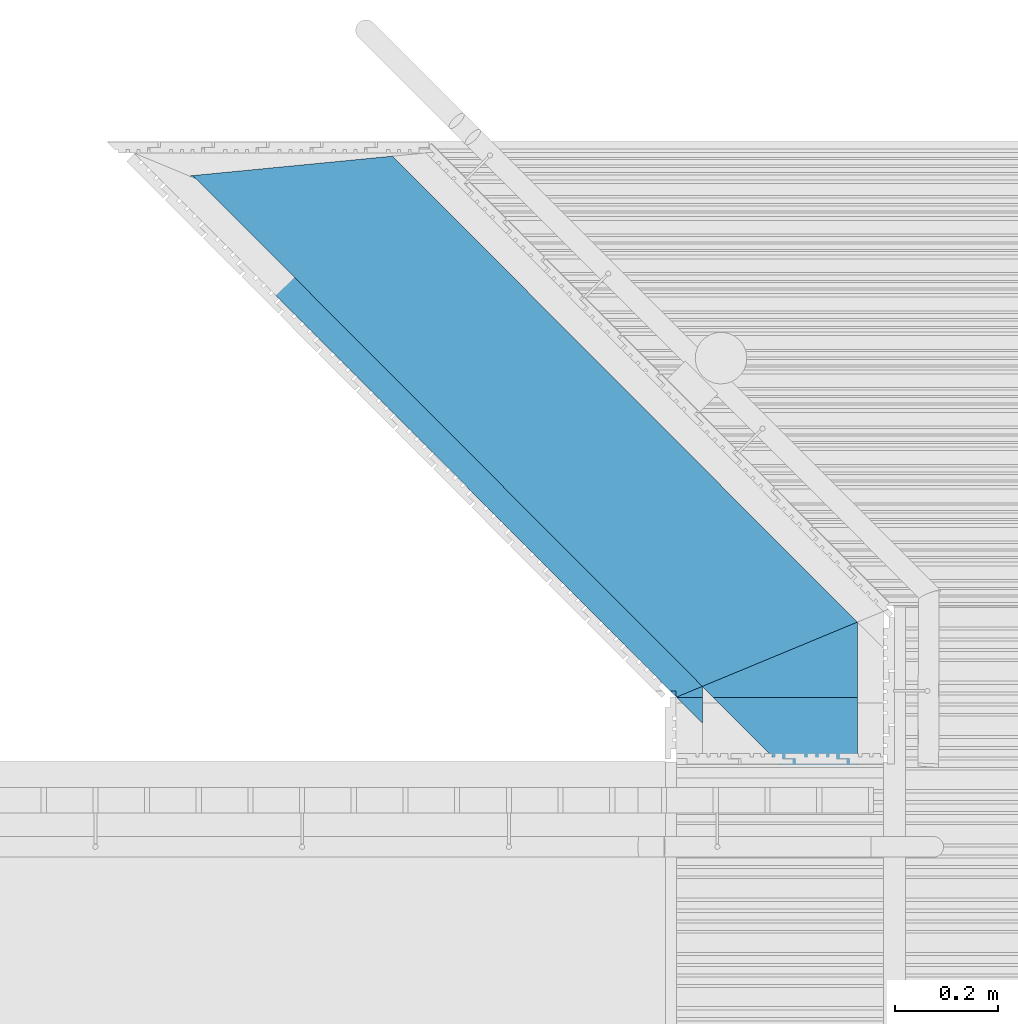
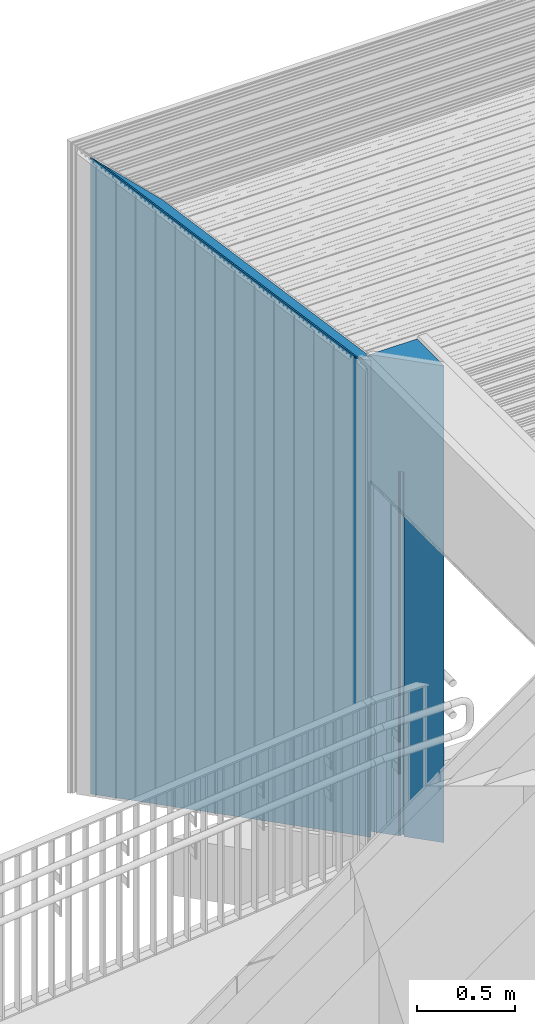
# One storey, part 134 of 418: 2 building element parts, 1 element without a shape of its own.
"""IFC2X3 building model written with IfcOpenShell, lengths in millimetres."""

from ifc_helpers import new_model, entity, si_unit, converted_unit, derived_unit, money_unit, direction, frame, origin_with_axes, place, context, subcontext, project, spatial, polyline, outline, extrude, boolean, faceted_brep, material, type_object, element, aggregate, save


model = new_model("IFC2X3")

# Units and contexts
model_context = context("Model", 3, precision=0.01, world=origin_with_axes(), true_north=direction((0.0, 1.0)))
body_context = subcontext(model_context, "Body", "Model", "MODEL_VIEW")
ifc_project = project(units=[si_unit("LENGTHUNIT", "METRE", prefix="MILLI"), si_unit("AREAUNIT", "SQUARE_METRE"), si_unit("VOLUMEUNIT", "CUBIC_METRE"), converted_unit("PLANEANGLEUNIT", "DEGREE", entity("IfcPlaneAngleMeasure", 0.0174532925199), si_unit("PLANEANGLEUNIT", "RADIAN"), dimensions=[0, 0, 0, 0, 0, 0, 0]), si_unit("SOLIDANGLEUNIT", "STERADIAN"), money_unit("EUR"), converted_unit("TIMEUNIT", "Year", entity("IfcTimeMeasure", 31556926.0), si_unit("TIMEUNIT", "SECOND"), dimensions=[0, 0, 1, 0, 0, 0, 0]), si_unit("MASSUNIT", "GRAM", prefix="KILO"), si_unit("THERMODYNAMICTEMPERATUREUNIT", "DEGREE_CELSIUS"), si_unit("LUMINOUSINTENSITYUNIT", "LUMEN"), si_unit("ENERGYUNIT", "JOULE", prefix="MEGA"), derived_unit("THERMALCONDUCTANCEUNIT", [(si_unit("POWERUNIT", "WATT"), 1), (si_unit("LENGTHUNIT", "METRE"), -1), (si_unit("THERMODYNAMICTEMPERATUREUNIT", "KELVIN"), -1)]), derived_unit("SPECIFICHEATCAPACITYUNIT", [(si_unit("ENERGYUNIT", "JOULE"), 1), (si_unit("MASSUNIT", "GRAM", prefix="KILO"), -1), (si_unit("THERMODYNAMICTEMPERATUREUNIT", "KELVIN"), -1)]), derived_unit("MASSDENSITYUNIT", [(si_unit("MASSUNIT", "GRAM", prefix="KILO"), 1), (si_unit("VOLUMEUNIT", "CUBIC_METRE"), -1)])], contexts=[model_context])

# Site, building, storey
site_placement = place(None, origin_with_axes())
site = spatial("IfcSite", under=ifc_project, at=site_placement, Name="Paldiski mnt 245/1, Tallinn, Harjumaa", CompositionType="COMPLEX")
building_placement = place(site_placement, origin_with_axes())
building = spatial("IfcBuilding", under=site, at=building_placement, Name="RKAS Hoone üldnimetus (kasutust iseloomustav) -> IFC Project Manager -> SOLIBRI", CompositionType="ELEMENT")
storey_placement = place(building_placement, origin_with_axes())
storey = spatial("IfcBuildingStorey", under=building, at=storey_placement, Name="Esimene korrus", CompositionType="ELEMENT", Elevation=0.0)

# Proxy, building element parts
building_element_proxy_type = type_object("IfcBuildingElementProxyType", Name="Varikatuse_sein 400", PredefinedType="NOTDEFINED")
proxy_placement = place(storey_placement, frame((-53883.9743783, 39767.252735, 0.0), z_axis=(0.0, 0.0, 1.0), x_axis=(0.706191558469, -0.708020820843, 0.0)))
proxy = element("IfcBuildingElementProxy", 1, at=proxy_placement, inside=storey, type_object=building_element_proxy_type, Name="Varikatus")
ifc_material = material(Name="SKR-01_Õhkvahe - Raam")
building_element_part_1_placement = place(proxy_placement, origin_with_axes())
building_element_part_1 = element("IfcBuildingElementPart", 2, at=building_element_part_1_placement, material=ifc_material, Name="SKR-01_Õhkvahe - Raam", context=body_context, shape_type="CSG", body=[
    boolean("DIFFERENCE", boolean("DIFFERENCE", boolean("DIFFERENCE", boolean("DIFFERENCE", boolean("DIFFERENCE", boolean("DIFFERENCE", extrude(outline(polyline([(-398.966548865, -400.0), (1654.52755892, -400.0), (1654.52755892, -350.0), (-398.966548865, -350.0), (-398.966548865, -400.0)])), origin_with_axes(), (0.0, 0.0, 1.0), 4090.0), faceted_brep([(-287.303761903, -350.0, 3918.38339031), (-287.303761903, -350.0, 0.0), (-398.966548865, -350.0, 0.0), (-398.966548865, -350.0, 4090.0), (1654.52755892, -350.0, 4090.0), (1654.52755892, -350.0, 0.0), (1108.78180968, -349.999999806, 0.0), (1108.78180915, -349.999999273, 2930.77802674), (1108.64311927, -350.0, 2930.54096341), (-328.347156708, -400.0, 3982.8532107), (-328.347156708, -400.0, 0.0), (-398.966548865, -400.0, 0.0), (-398.966548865, -400.0, 4090.0), (1654.52755892, -400.0, 4090.0), (1654.52755892, -400.0, 0.0), (1158.9113259, -400.0, 0.0), (1158.9113259, -400.0, 2982.00000037), (1123.80377089, -364.983149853, 2982.00000037), (1088.87739132, -400.0, 2982.00000037), (1088.03072295, -400.0, 2980.55277872), (1085.98561484, -400.0, 2982.00000037), (1078.53869489, -392.562102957, 2982.00000037), (1071.1200146, -400.0, 2992.51964895), (1071.1200146, -400.0, 2982.00000037)], [[[0, 1, 2, 3, 4, 5, 6, 7, 8]], [[1, 0, 9, 10]], [[1, 10, 11, 2]], [[3, 2, 11, 12]], [[3, 12, 13, 4]], [[13, 14, 5, 4]], [[15, 6, 5, 14]], [[7, 6, 15, 16, 17]], [[8, 7, 17, 18, 19]], [[0, 8, 19, 20, 21, 22, 9]], [[16, 15, 14, 13, 12, 11, 10, 9, 22, 23, 20, 19, 18]], [[16, 18, 17]], [[20, 23, 21]], [[23, 22, 21]]])), faceted_brep([(1295.46685324, -346.063713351, 0.0), (1299.41333728, -350.000000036, 0.0), (1291.5407371, -349.999999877, 0.0), (1295.46685324, -346.063713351, 2280.0), (1299.41333721, -349.999999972, 2280.0), (1291.540737, -349.999999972, 2280.0)], [[[0, 1, 2]], [[1, 0, 3, 4]], [[5, 2, 1, 4]], [[0, 2, 5, 3]], [[5, 4, 3]]])), faceted_brep([(1309.7438273, -331.749758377, 0.0), (1317.53205682, -339.517864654, 0.0), (1331.65588833, -325.357449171, 0.0), (1338.73609607, -332.419364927, 0.0), (1321.20088299, -349.999999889, 0.0), (1301.427452, -349.999999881, 0.0), (1304.406392, -347.01334279, 0.0), (1299.45024677, -342.07000206, 0.0), (1309.7438273, -331.749758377, 2280.0), (1317.53205682, -339.517864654, 2280.0), (1331.65588833, -325.357449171, 2280.0), (1338.73609607, -332.419364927, 2280.0), (1321.2008829, -349.999999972, 2280.0), (1301.42745191, -349.999999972, 2280.0), (1304.406392, -347.01334279, 2280.0), (1299.45024677, -342.07000206, 2280.0)], [[[0, 1, 2, 3, 4, 5, 6, 7]], [[1, 0, 8, 9]], [[2, 1, 9, 10]], [[3, 2, 10, 11]], [[4, 3, 11, 12]], [[13, 5, 4, 12]], [[6, 5, 13, 14]], [[7, 6, 14, 15]], [[0, 7, 15, 8]], [[13, 12, 11, 10, 9, 8, 15, 14]]])), faceted_brep([(1383.89394094, -257.407572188, 0.0), (1391.68217046, -265.175678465, 0.0), (1405.80600197, -251.015262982, 0.0), (1412.88620971, -258.077178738, 0.0), (1342.2670542, -328.879260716, 0.0), (1334.83283462, -321.464248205, 0.0), (1320.70900327, -335.624665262, 0.0), (1313.27478542, -328.209654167, 0.0), (1339.77539592, -301.640397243, 0.0), (1344.73154273, -306.583737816, 0.0), (1349.22468465, -302.078957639, 0.0), (1344.26853942, -297.135616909, 0.0), (1354.81841795, -286.558410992, 0.0), (1359.77456318, -291.501751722, 0.0), (1364.10135663, -287.163749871, 0.0), (1359.1452114, -282.220409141, 0.0), (1369.61696688, -271.721527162, 0.0), (1374.57311368, -276.664867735, 0.0), (1378.55650564, -272.671156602, 0.0), (1373.60036041, -267.727815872, 0.0), (1383.89394094, -257.407572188, 2280.0), (1391.68217046, -265.175678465, 2280.0), (1405.80600197, -251.015262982, 2280.0), (1412.88620971, -258.077178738, 2280.0), (1342.2670542, -328.879260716, 2280.0), (1334.83283462, -321.464248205, 2280.0), (1320.70900327, -335.624665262, 2280.0), (1313.27478542, -328.209654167, 2280.0), (1339.77539592, -301.640397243, 2280.0), (1344.73154273, -306.583737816, 2280.0), (1349.22468465, -302.078957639, 2280.0), (1344.26853942, -297.135616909, 2280.0), (1354.81841795, -286.558410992, 2280.0), (1359.77456318, -291.501751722, 2280.0), (1364.10135663, -287.163749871, 2280.0), (1359.1452114, -282.220409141, 2280.0), (1369.61696688, -271.721527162, 2280.0), (1374.57311368, -276.664867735, 2280.0), (1378.55650564, -272.671156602, 2280.0), (1373.60036041, -267.727815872, 2280.0)], [[[0, 1, 2, 3, 4, 5, 6, 7, 8, 9, 10, 11, 12, 13, 14, 15, 16, 17, 18, 19]], [[1, 0, 20, 21]], [[2, 1, 21, 22]], [[3, 2, 22, 23]], [[4, 3, 23, 24]], [[5, 4, 24, 25]], [[6, 5, 25, 26]], [[7, 6, 26, 27]], [[8, 7, 27, 28]], [[9, 8, 28, 29]], [[10, 9, 29, 30]], [[11, 10, 30, 31]], [[12, 11, 31, 32]], [[13, 12, 32, 33]], [[14, 13, 33, 34]], [[15, 14, 34, 35]], [[16, 15, 35, 36]], [[17, 16, 36, 37]], [[18, 17, 37, 38]], [[19, 18, 38, 39]], [[0, 19, 39, 20]], [[21, 20, 39, 38, 37, 36, 35, 34, 33, 32, 31, 30, 29, 28, 27, 26, 25, 24, 23, 22]]])), faceted_brep([(-41.0433930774, -50.0, 3531.56446793), (-41.0433930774, -50.0, 0.0), (-398.966548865, -50.0, 0.0), (-398.966548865, -50.0, 4090.0), (1654.52755892, -50.0, 4090.0), (1654.52755892, -50.0, 0.0), (1232.81862778, -49.9999999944, 0.0), (1232.81862769, -49.9999999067, 2631.32666049), (1232.31749721, -50.0, 2630.47007154), (-287.303761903, -350.0, 3918.38339031), (-287.30376199, -350.000000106, 0.0), (-398.966548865, -350.0, 0.0), (-398.966548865, -350.0, 4090.0), (1654.52755892, -350.0, 4090.0), (1654.52755892, -350.0, 0.0), (1412.25513599, -228.972911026, 0.0), (1533.59572387, -349.999999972, 0.0), (1427.12357458, -243.802935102, 0.0), (1416.41716813, -254.537074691, 0.0), (1408.98294881, -247.12206187, 0.0), (1394.85911702, -261.282479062, 0.0), (1387.42489911, -253.867468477, 0.0), (1412.25513599, -228.972911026, 2280.0), (1427.12357458, -243.802935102, 2280.0), (1533.5957239, -350.0, 2982.00000037), (1335.66123843, -152.5769036, 2982.00000037), (1138.74821044, -349.999999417, 2982.00000037), (1108.78180915, -349.999999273, 2930.77802674), (1108.64311927, -350.0, 2930.54096341), (1416.41716813, -254.537074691, 2280.0), (1408.98294881, -247.12206187, 2280.0), (1394.85911702, -261.282479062, 2280.0), (1387.42489911, -253.867468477, 2280.0)], [[[0, 1, 2, 3, 4, 5, 6, 7, 8]], [[1, 0, 9, 10]], [[1, 10, 11, 2]], [[3, 2, 11, 12]], [[3, 12, 13, 4]], [[13, 14, 5, 4]], [[15, 6, 5, 14, 16, 17, 18, 19, 20, 21]], [[7, 6, 15, 22, 23, 17, 16, 24, 25]], [[8, 7, 25, 26, 27, 28]], [[0, 8, 28, 9]], [[24, 16, 14, 13, 12, 11, 10, 9, 28, 27, 26]], [[18, 17, 23, 29]], [[19, 18, 29, 30]], [[20, 19, 30, 31]], [[21, 20, 31, 32]], [[15, 21, 32, 22]], [[23, 22, 32, 31, 30, 29]], [[24, 26, 25]]])), faceted_brep([(9.75649072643e-06, 9.78177183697e-06, 3467.09463492), (9.75649072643e-06, 9.78177183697e-06, 0.0), (-398.966548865, 0.0, 0.0), (-398.966548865, 0.0, 4090.0), (1654.52755892, 0.0, 4090.0), (1654.52755892, 0.0, 0.0), (1253.49141913, 0.0, 0.0), (1253.49142302, -3.8734455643e-06, 2581.41809275), (1252.92989353, 0.0, 2580.45825622), (-41.0433930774, -50.0, 3531.56446793), (-41.0433936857, -50.000000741, 0.0), (-398.966548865, -50.0, 0.0), (-398.966548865, -50.0, 4090.0), (1654.52755892, -50.0, 4090.0), (1654.52755892, -50.0, 0.0), (1303.62093515, -50.0, 0.0), (1303.62093515, -50.0, 2752.34999852), (1232.81862769, -49.9999999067, 2631.32666049), (1232.31749721, -50.0, 2630.47007154)], [[[0, 1, 2, 3, 4, 5, 6, 7, 8]], [[1, 0, 9, 10]], [[1, 10, 11, 2]], [[3, 2, 11, 12]], [[3, 12, 13, 4]], [[13, 14, 5, 4]], [[15, 6, 5, 14]], [[7, 6, 15, 16]], [[8, 7, 16, 17, 18]], [[0, 8, 18, 9]], [[16, 15, 14, 13, 12, 11, 10, 9, 18, 17]]])),
])
building_element_part_2_placement = place(proxy_placement, origin_with_axes())
building_element_part_2 = element("IfcBuildingElementPart", 3, at=building_element_part_2_placement, material=ifc_material, Name="SKR-01_Õhkvahe - Raam", context=body_context, shape_type="CSG", body=[
    boolean("DIFFERENCE", boolean("DIFFERENCE", boolean("DIFFERENCE", boolean("DIFFERENCE", boolean("DIFFERENCE", boolean("DIFFERENCE", extrude(outline(polyline([(-398.966548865, -350.0), (1654.52755892, -350.0), (1654.52755892, -50.0), (-398.966548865, -50.0), (-398.966548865, -350.0)])), origin_with_axes(), (0.0, 0.0, 1.0), 4090.0), faceted_brep([(-287.303761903, -350.0, 3918.38339031), (-287.303761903, -350.0, 0.0), (-398.966548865, -350.0, 0.0), (-398.966548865, -350.0, 4090.0), (1654.52755892, -350.0, 4090.0), (1654.52755892, -350.0, 0.0), (1108.78180968, -349.999999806, 0.0), (1108.78180915, -349.999999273, 2930.77802674), (1108.64311927, -350.0, 2930.54096341), (-328.347156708, -400.0, 3982.8532107), (-328.347156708, -400.0, 0.0), (-398.966548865, -400.0, 0.0), (-398.966548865, -400.0, 4090.0), (1654.52755892, -400.0, 4090.0), (1654.52755892, -400.0, 0.0), (1158.9113259, -400.0, 0.0), (1158.9113259, -400.0, 2982.00000037), (1123.80377089, -364.983149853, 2982.00000037), (1088.87739132, -400.0, 2982.00000037), (1088.03072295, -400.0, 2980.55277872), (1085.98561484, -400.0, 2982.00000037), (1078.53869489, -392.562102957, 2982.00000037), (1071.1200146, -400.0, 2992.51964895), (1071.1200146, -400.0, 2982.00000037)], [[[0, 1, 2, 3, 4, 5, 6, 7, 8]], [[1, 0, 9, 10]], [[1, 10, 11, 2]], [[3, 2, 11, 12]], [[3, 12, 13, 4]], [[13, 14, 5, 4]], [[15, 6, 5, 14]], [[7, 6, 15, 16, 17]], [[8, 7, 17, 18, 19]], [[0, 8, 19, 20, 21, 22, 9]], [[16, 15, 14, 13, 12, 11, 10, 9, 22, 23, 20, 19, 18]], [[16, 18, 17]], [[20, 23, 21]], [[23, 22, 21]]])), faceted_brep([(1295.46685324, -346.063713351, 0.0), (1299.41333728, -350.000000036, 0.0), (1291.5407371, -349.999999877, 0.0), (1295.46685324, -346.063713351, 2280.0), (1299.41333721, -349.999999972, 2280.0), (1291.540737, -349.999999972, 2280.0)], [[[0, 1, 2]], [[1, 0, 3, 4]], [[5, 2, 1, 4]], [[0, 2, 5, 3]], [[5, 4, 3]]])), faceted_brep([(1309.7438273, -331.749758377, 0.0), (1317.53205682, -339.517864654, 0.0), (1331.65588833, -325.357449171, 0.0), (1338.73609607, -332.419364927, 0.0), (1321.20088299, -349.999999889, 0.0), (1301.427452, -349.999999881, 0.0), (1304.406392, -347.01334279, 0.0), (1299.45024677, -342.07000206, 0.0), (1309.7438273, -331.749758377, 2280.0), (1317.53205682, -339.517864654, 2280.0), (1331.65588833, -325.357449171, 2280.0), (1338.73609607, -332.419364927, 2280.0), (1321.2008829, -349.999999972, 2280.0), (1301.42745191, -349.999999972, 2280.0), (1304.406392, -347.01334279, 2280.0), (1299.45024677, -342.07000206, 2280.0)], [[[0, 1, 2, 3, 4, 5, 6, 7]], [[1, 0, 8, 9]], [[2, 1, 9, 10]], [[3, 2, 10, 11]], [[4, 3, 11, 12]], [[13, 5, 4, 12]], [[6, 5, 13, 14]], [[7, 6, 14, 15]], [[0, 7, 15, 8]], [[13, 12, 11, 10, 9, 8, 15, 14]]])), faceted_brep([(1383.89394094, -257.407572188, 0.0), (1391.68217046, -265.175678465, 0.0), (1405.80600197, -251.015262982, 0.0), (1412.88620971, -258.077178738, 0.0), (1342.2670542, -328.879260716, 0.0), (1334.83283462, -321.464248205, 0.0), (1320.70900327, -335.624665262, 0.0), (1313.27478542, -328.209654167, 0.0), (1339.77539592, -301.640397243, 0.0), (1344.73154273, -306.583737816, 0.0), (1349.22468465, -302.078957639, 0.0), (1344.26853942, -297.135616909, 0.0), (1354.81841795, -286.558410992, 0.0), (1359.77456318, -291.501751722, 0.0), (1364.10135663, -287.163749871, 0.0), (1359.1452114, -282.220409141, 0.0), (1369.61696688, -271.721527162, 0.0), (1374.57311368, -276.664867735, 0.0), (1378.55650564, -272.671156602, 0.0), (1373.60036041, -267.727815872, 0.0), (1383.89394094, -257.407572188, 2280.0), (1391.68217046, -265.175678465, 2280.0), (1405.80600197, -251.015262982, 2280.0), (1412.88620971, -258.077178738, 2280.0), (1342.2670542, -328.879260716, 2280.0), (1334.83283462, -321.464248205, 2280.0), (1320.70900327, -335.624665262, 2280.0), (1313.27478542, -328.209654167, 2280.0), (1339.77539592, -301.640397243, 2280.0), (1344.73154273, -306.583737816, 2280.0), (1349.22468465, -302.078957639, 2280.0), (1344.26853942, -297.135616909, 2280.0), (1354.81841795, -286.558410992, 2280.0), (1359.77456318, -291.501751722, 2280.0), (1364.10135663, -287.163749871, 2280.0), (1359.1452114, -282.220409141, 2280.0), (1369.61696688, -271.721527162, 2280.0), (1374.57311368, -276.664867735, 2280.0), (1378.55650564, -272.671156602, 2280.0), (1373.60036041, -267.727815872, 2280.0)], [[[0, 1, 2, 3, 4, 5, 6, 7, 8, 9, 10, 11, 12, 13, 14, 15, 16, 17, 18, 19]], [[1, 0, 20, 21]], [[2, 1, 21, 22]], [[3, 2, 22, 23]], [[4, 3, 23, 24]], [[5, 4, 24, 25]], [[6, 5, 25, 26]], [[7, 6, 26, 27]], [[8, 7, 27, 28]], [[9, 8, 28, 29]], [[10, 9, 29, 30]], [[11, 10, 30, 31]], [[12, 11, 31, 32]], [[13, 12, 32, 33]], [[14, 13, 33, 34]], [[15, 14, 34, 35]], [[16, 15, 35, 36]], [[17, 16, 36, 37]], [[18, 17, 37, 38]], [[19, 18, 38, 39]], [[0, 19, 39, 20]], [[21, 20, 39, 38, 37, 36, 35, 34, 33, 32, 31, 30, 29, 28, 27, 26, 25, 24, 23, 22]]])), faceted_brep([(-41.0433930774, -50.0, 3531.56446793), (-41.0433930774, -50.0, 0.0), (-398.966548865, -50.0, 0.0), (-398.966548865, -50.0, 4090.0), (1654.52755892, -50.0, 4090.0), (1654.52755892, -50.0, 0.0), (1232.81862778, -49.9999999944, 0.0), (1232.81862769, -49.9999999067, 2631.32666049), (1232.31749721, -50.0, 2630.47007154), (-287.303761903, -350.0, 3918.38339031), (-287.30376199, -350.000000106, 0.0), (-398.966548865, -350.0, 0.0), (-398.966548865, -350.0, 4090.0), (1654.52755892, -350.0, 4090.0), (1654.52755892, -350.0, 0.0), (1412.25513599, -228.972911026, 0.0), (1533.59572387, -349.999999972, 0.0), (1427.12357458, -243.802935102, 0.0), (1416.41716813, -254.537074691, 0.0), (1408.98294881, -247.12206187, 0.0), (1394.85911702, -261.282479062, 0.0), (1387.42489911, -253.867468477, 0.0), (1412.25513599, -228.972911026, 2280.0), (1427.12357458, -243.802935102, 2280.0), (1533.5957239, -350.0, 2982.00000037), (1335.66123843, -152.5769036, 2982.00000037), (1138.74821044, -349.999999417, 2982.00000037), (1108.78180915, -349.999999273, 2930.77802674), (1108.64311927, -350.0, 2930.54096341), (1416.41716813, -254.537074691, 2280.0), (1408.98294881, -247.12206187, 2280.0), (1394.85911702, -261.282479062, 2280.0), (1387.42489911, -253.867468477, 2280.0)], [[[0, 1, 2, 3, 4, 5, 6, 7, 8]], [[1, 0, 9, 10]], [[1, 10, 11, 2]], [[3, 2, 11, 12]], [[3, 12, 13, 4]], [[13, 14, 5, 4]], [[15, 6, 5, 14, 16, 17, 18, 19, 20, 21]], [[7, 6, 15, 22, 23, 17, 16, 24, 25]], [[8, 7, 25, 26, 27, 28]], [[0, 8, 28, 9]], [[24, 16, 14, 13, 12, 11, 10, 9, 28, 27, 26]], [[18, 17, 23, 29]], [[19, 18, 29, 30]], [[20, 19, 30, 31]], [[21, 20, 31, 32]], [[15, 21, 32, 22]], [[23, 22, 32, 31, 30, 29]], [[24, 26, 25]]])), faceted_brep([(9.75649072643e-06, 9.78177183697e-06, 3467.09463492), (9.75649072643e-06, 9.78177183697e-06, 0.0), (-398.966548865, 0.0, 0.0), (-398.966548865, 0.0, 4090.0), (1654.52755892, 0.0, 4090.0), (1654.52755892, 0.0, 0.0), (1253.49141913, 0.0, 0.0), (1253.49142302, -3.8734455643e-06, 2581.41809275), (1252.92989353, 0.0, 2580.45825622), (-41.0433930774, -50.0, 3531.56446793), (-41.0433936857, -50.000000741, 0.0), (-398.966548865, -50.0, 0.0), (-398.966548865, -50.0, 4090.0), (1654.52755892, -50.0, 4090.0), (1654.52755892, -50.0, 0.0), (1303.62093515, -50.0, 0.0), (1303.62093515, -50.0, 2752.34999852), (1232.81862769, -49.9999999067, 2631.32666049), (1232.31749721, -50.0, 2630.47007154)], [[[0, 1, 2, 3, 4, 5, 6, 7, 8]], [[1, 0, 9, 10]], [[1, 10, 11, 2]], [[3, 2, 11, 12]], [[3, 12, 13, 4]], [[13, 14, 5, 4]], [[15, 6, 5, 14]], [[7, 6, 15, 16]], [[8, 7, 16, 17, 18]], [[0, 8, 18, 9]], [[16, 15, 14, 13, 12, 11, 10, 9, 18, 17]]])),
])
aggregate(proxy, [building_element_part_1, building_element_part_2])

save(model, "model.ifc")
